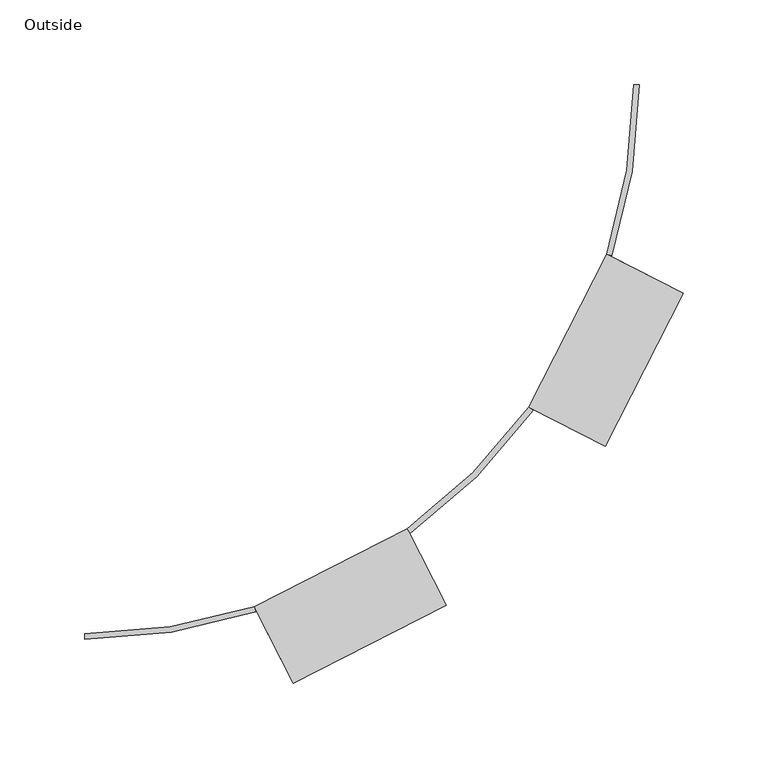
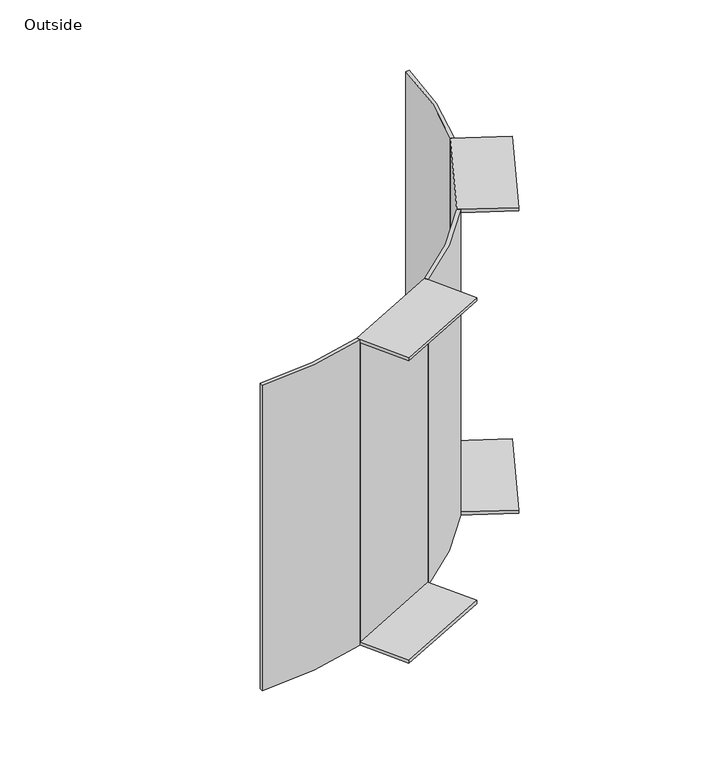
"""IFC4 building model written with IfcOpenShell, lengths in millimetres: cable carrier fitting geometry, Bend-Vertical-Cablofil-Wire_Mesh_Cable_Tray : Outside."""

from ifc_helpers import new_model, si_unit, point, frame, frame_2d, origin, place, context, project, spatial, polyline, circle_curve, trimmed, segment, composite_curve, outline, extrude, source, transform, mapped, element, save


def outside_59f74532(model_context):
    return source(origin(), model_context, "Body", "SweptSolid", [
        extrude(outline(composite_curve([segment(polyline([(-87.4191764, 159.2612254), (-84.8505475, 157.3950072)]), True, "CONTINUOUS"), segment(trimmed(circle_curve(frame_2d((-350.1366237, 350.1366237)), 327.9116237), [point((-84.8505475, 157.3950072))], [point((-157.3950072, 84.8505475))], False, "CARTESIAN"), True, "CONTINUOUS"), segment(polyline([(-157.3950072, 84.8505475), (-159.2612254, 87.4191764)]), True, "CONTINUOUS"), segment(trimmed(circle_curve(frame_2d((-350.1366237, 350.1366237)), 324.7366237), [point((-159.2612254, 87.4191764))], [point((-87.4191764, 159.2612254))], True, "CARTESIAN"), True, "CONTINUOUS")], self_intersect=False)), frame((0.0, 0.0, -152.4), z_axis=(0.0, 0.0, 1.0), x_axis=(1.0, 0.0, 0.0)), (0.0, 0.0, 1.0), 304.8),
        extrude(outline(composite_curve([segment(polyline([(-249.7874882, 41.2937416), (-248.8063593, 38.2741372)]), True, "CONTINUOUS"), segment(trimmed(circle_curve(frame_2d((-350.1366237, 350.1366237)), 327.9116237), [point((-248.8063593, 38.2741372))], [point((-350.1366237, 22.225))], False, "CARTESIAN"), True, "CONTINUOUS"), segment(polyline([(-350.1366237, 22.225), (-350.1366237, 25.4)]), True, "CONTINUOUS"), segment(trimmed(circle_curve(frame_2d((-350.1366237, 350.1366237)), 324.7366237), [point((-350.1366237, 25.4))], [point((-249.7874882, 41.2937416))], True, "CARTESIAN"), True, "CONTINUOUS")], self_intersect=False)), frame((0.0, 0.0, -152.4), z_axis=(0.0, 0.0, 1.0), x_axis=(1.0, 0.0, 0.0)), (0.0, 0.0, 1.0), 304.8),
        extrude(outline(composite_curve([segment(polyline([(-25.4, 350.1366237), (-22.225, 350.1366237)]), True, "CONTINUOUS"), segment(trimmed(circle_curve(frame_2d((-350.1366237, 350.1366237)), 327.9116237), [point((-22.225, 350.1366237))], [point((-38.2741372, 248.8063593))], False, "CARTESIAN"), True, "CONTINUOUS"), segment(polyline([(-38.2741372, 248.8063593), (-41.2937416, 249.7874882)]), True, "CONTINUOUS"), segment(trimmed(circle_curve(frame_2d((-350.1366237, 350.1366237)), 324.7366237), [point((-41.2937416, 249.7874882))], [point((-25.4, 350.1366237))], True, "CARTESIAN"), True, "CONTINUOUS")], self_intersect=False)), frame((0.0, 0.0, -152.4), z_axis=(0.0, 0.0, 1.0), x_axis=(1.0, 0.0, 0.0)), (0.0, 0.0, 1.0), 304.8),
        extrude(outline(polyline([(-50.7999999, 0.0), (0.0, 0.0), (0.0, -304.8), (-50.7999999, -304.8), (-50.7999999, -301.625), (-3.175, -301.625), (-3.175, -3.175), (-50.7999999, -3.175), (-50.7999999, 0.0)])), frame((-249.7874882, 41.2937416, 152.4), z_axis=(0.8910065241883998, 0.45399049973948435, 0.0), x_axis=(-0.45399049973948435, 0.8910065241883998, 0.0)), (0.0, 0.0, 1.0), 101.6),
        extrude(outline(polyline([(-50.8, 0.0), (0.0, 0.0), (0.0, -304.8), (-50.8, -304.8), (-50.8, -301.625), (-3.175, -301.625), (-3.175, -3.175), (-50.8, -3.175), (-50.8, 0.0)])), frame((-87.4191764, 159.2612254, 152.4), z_axis=(0.45399049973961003, 0.8910065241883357, 0.0), x_axis=(-0.8910065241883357, 0.45399049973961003, 0.0)), (0.0, 0.0, 1.0), 101.6),
    ])


if __name__ == "__main__":
    model = new_model("IFC4")
    model_context = context("Model", 3, world=origin())
    ifc_project = project(units=[si_unit("LENGTHUNIT", "METRE", prefix="MILLI")], contexts=[model_context])
    site = spatial("IfcSite", under=ifc_project)
    building = spatial("IfcBuilding", under=site)
    placement = place(None, origin())
    outside_shape = outside_59f74532(model_context)
    element("IfcCableCarrierFitting", 1, ObjectType="Bend-Vertical-Cablofil-Wire_Mesh_Cable_Tray : Outside", at=placement, inside=building, context=model_context, shape_type="MappedRepresentation", body=[
        mapped(outside_shape, transform((0.0, 0.0, 0.0), x_axis=(1.0, 0.0, 0.0), y_axis=(0.0, 1.0, 0.0), z_axis=(0.0, 0.0, 1.0))),
    ])
    save(model, "model.ifc")
